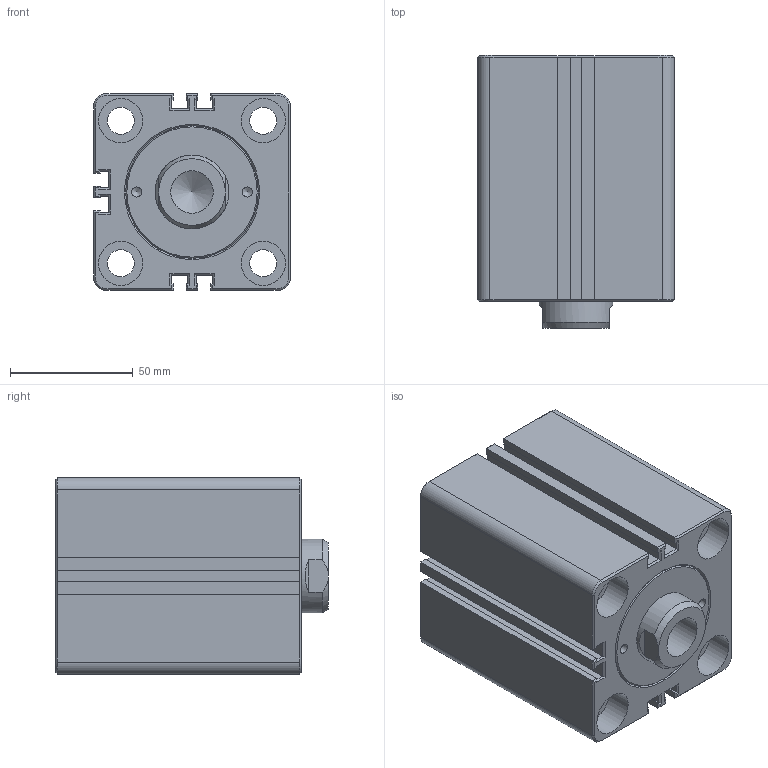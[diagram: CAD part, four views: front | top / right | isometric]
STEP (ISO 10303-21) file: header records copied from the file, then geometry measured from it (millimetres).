
FILE_DESCRIPTION(/* description */ ('Unknown'),/* implementation_level */ '2;1');
FILE_NAME(/* name */ 'HTM70-SDMB50X40N',/* time_stamp */ '2022-08-31T05:44:40+08:00',/* author */ ('Unknown'),/* organization */ ('Unknown'),/* preprocessor_version */ 'ST-DEVELOPER v16.7',/* originating_system */ 'DEX',/* authorisation */ $);
FILE_SCHEMA (('AUTOMOTIVE_DESIGN {1 0 10303 214 3 1 1}'));
Length unit declared in the file: millimetre
Products named in the file (1): HTM70-SDMB50X40N
Bounding box: 80 x 111 x 80 mm (x, y, z)
Volume: 561750.2 mm3; surface area: 72577.1 mm2
Topology: 1 solids, 1 shells, 285 faces, 663 edges, 400 vertices
Faces by surface type: plane 182, cone 40, bspline 36, cylinder 27
Full cylindrical faces by diameter (mm): 4.1 x2, 6 x3, 11 x4, 12 x2, 13 x2, 17.294 x1, 18 x8, 30 x1
Entity records: 9975 total; most frequent: CARTESIAN_POINT 1979, ORIENTED_EDGE 1218, DIRECTION 1116, EDGE_CURVE 609, LINE 402, VECTOR 402, VERTEX_POINT 386, AXIS2_PLACEMENT_3D 357
